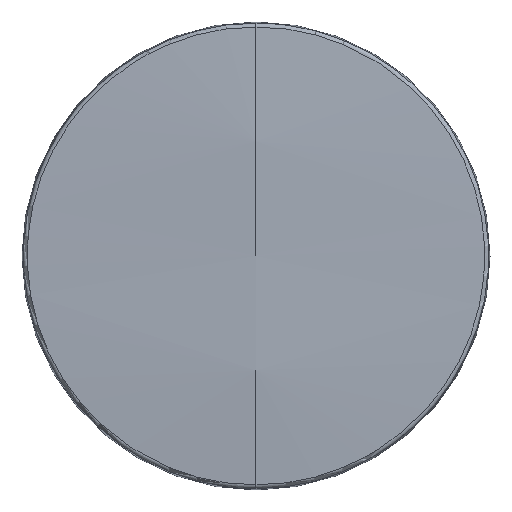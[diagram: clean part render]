
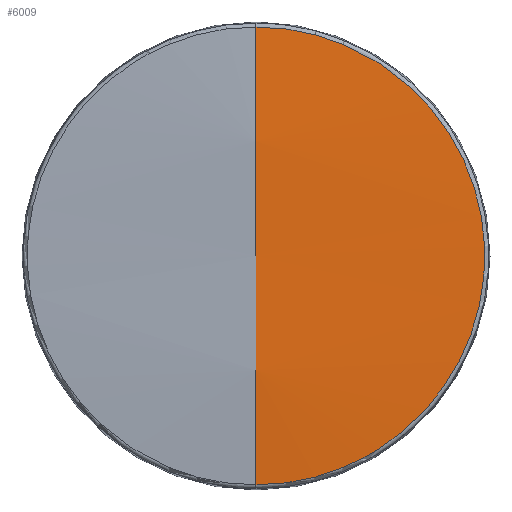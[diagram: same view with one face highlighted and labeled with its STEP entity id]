
A CAD part, top view. The second image highlights one B-rep face of the part: STEP entity #6009.
In plain terms, the highlighted spherical face has radius 1077.38 mm.
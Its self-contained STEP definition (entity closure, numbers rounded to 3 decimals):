
#20=SPHERICAL_SURFACE('',#6588,1077.38);
#84=B_SPLINE_CURVE_WITH_KNOTS('',3,(#10191,#10192,#10193,#10194,#10195),
 .UNSPECIFIED.,.F.,.F.,(4,1,4),(0.,0.5,1.),.UNSPECIFIED.);
#88=B_SPLINE_CURVE_WITH_KNOTS('',3,(#10237,#10238,#10239,#10240),
 .UNSPECIFIED.,.F.,.F.,(4,4),(0.,0.125),.UNSPECIFIED.);
#89=B_SPLINE_CURVE_WITH_KNOTS('',3,(#10241,#10242,#10243,#10244,#10245,
#10246,#10247,#10248,#10249,#10250,#10251,#10252,#10253,#10254,#10255,#10256),
 .UNSPECIFIED.,.F.,.F.,(4,3,3,3,3,4),(0.,0.25,
0.49,0.729,0.969,1.),.UNSPECIFIED.);
#90=B_SPLINE_CURVE_WITH_KNOTS('',3,(#10258,#10259,#10260,#10261,#10262,
#10263,#10264,#10265,#10266,#10267,#10268,#10269,#10270,#10271,#10272,#10273),
 .UNSPECIFIED.,.F.,.F.,(4,3,3,3,3,4),(0.,0.25,
0.49,0.729,0.969,1.),.UNSPECIFIED.);
#91=B_SPLINE_CURVE_WITH_KNOTS('',3,(#10275,#10276,#10277,#10278),
 .UNSPECIFIED.,.F.,.F.,(4,4),(0.875,1.),.UNSPECIFIED.);
#92=B_SPLINE_CURVE_WITH_KNOTS('',3,(#10279,#10280,#10281,#10282,#10283,
#10284,#10285,#10286,#10287),.UNSPECIFIED.,.F.,.F.,(4,1,1,1,1,1,4),(0.125,
0.25,0.375,0.5,0.625,0.75,0.875),.UNSPECIFIED.);
#525=FACE_OUTER_BOUND('',#869,.T.);
#869=EDGE_LOOP('',(#5061,#5062,#5063,#5064,#5065,#5066));
#2725=VERTEX_POINT('',#10189);
#2726=VERTEX_POINT('',#10190);
#2727=VERTEX_POINT('',#10235);
#2728=VERTEX_POINT('',#10236);
#2729=VERTEX_POINT('',#10257);
#2730=VERTEX_POINT('',#10274);
#3523=EDGE_CURVE('',#2725,#2726,#84,.T.);
#3527=EDGE_CURVE('',#2727,#2728,#88,.T.);
#3528=EDGE_CURVE('',#2725,#2727,#89,.T.);
#3529=EDGE_CURVE('',#2729,#2726,#90,.T.);
#3530=EDGE_CURVE('',#2730,#2729,#91,.T.);
#3531=EDGE_CURVE('',#2728,#2730,#92,.T.);
#5061=ORIENTED_EDGE('',*,*,#3527,.F.);
#5062=ORIENTED_EDGE('',*,*,#3528,.F.);
#5063=ORIENTED_EDGE('',*,*,#3523,.T.);
#5064=ORIENTED_EDGE('',*,*,#3529,.F.);
#5065=ORIENTED_EDGE('',*,*,#3530,.F.);
#5066=ORIENTED_EDGE('',*,*,#3531,.F.);
#6009=ADVANCED_FACE('',(#525),#20,.T.);
#6588=AXIS2_PLACEMENT_3D('',#10234,#8089,#8090);
#8089=DIRECTION('center_axis',(0.,0.,1.));
#8090=DIRECTION('ref_axis',(0.,-1.,0.));
#10189=CARTESIAN_POINT('',(0.,0.02,245.505));
#10190=CARTESIAN_POINT('',(0.,-0.02,245.505));
#10191=CARTESIAN_POINT('Ctrl Pts',(0.,0.02,
246.505));
#10192=CARTESIAN_POINT('Ctrl Pts',(0.013,0.013,
246.505));
#10193=CARTESIAN_POINT('Ctrl Pts',(0.027,0.,
246.505));
#10194=CARTESIAN_POINT('Ctrl Pts',(0.013,-0.013,
246.505));
#10195=CARTESIAN_POINT('Ctrl Pts',(0.,-0.02,
246.505));
#10234=CARTESIAN_POINT('Origin',(0.,0.,-830.874));
#10235=CARTESIAN_POINT('',(0.,79.196,243.591));
#10236=CARTESIAN_POINT('',(30.307,73.167,243.591));
#10237=CARTESIAN_POINT('Ctrl Pts',(0.,79.196,
243.591));
#10238=CARTESIAN_POINT('Ctrl Pts',(10.408,79.3,243.591));
#10239=CARTESIAN_POINT('Ctrl Pts',(20.742,77.162,243.591));
#10240=CARTESIAN_POINT('Ctrl Pts',(30.307,73.167,243.591));
#10241=CARTESIAN_POINT('Ctrl Pts',(0.,0.02,
246.505));
#10242=CARTESIAN_POINT('Ctrl Pts',(0.,6.627,
246.505));
#10243=CARTESIAN_POINT('Ctrl Pts',(0.,13.232,
246.444));
#10244=CARTESIAN_POINT('Ctrl Pts',(0.,19.834,
246.323));
#10245=CARTESIAN_POINT('Ctrl Pts',(0.,26.166,
246.206));
#10246=CARTESIAN_POINT('Ctrl Pts',(0.,32.497,
246.034));
#10247=CARTESIAN_POINT('Ctrl Pts',(0.,38.825,
245.806));
#10248=CARTESIAN_POINT('Ctrl Pts',(0.,45.142,
245.578));
#10249=CARTESIAN_POINT('Ctrl Pts',(0.,51.457,
245.295));
#10250=CARTESIAN_POINT('Ctrl Pts',(0.,57.77,
244.956));
#10251=CARTESIAN_POINT('Ctrl Pts',(0.,64.093,
244.616));
#10252=CARTESIAN_POINT('Ctrl Pts',(0.,70.413,
244.221));
#10253=CARTESIAN_POINT('Ctrl Pts',(0.,76.732,
243.77));
#10254=CARTESIAN_POINT('Ctrl Pts',(0.,77.553,
243.711));
#10255=CARTESIAN_POINT('Ctrl Pts',(0.,78.375,
243.651));
#10256=CARTESIAN_POINT('Ctrl Pts',(0.,79.196,
243.591));
#10257=CARTESIAN_POINT('',(0.,-79.196,243.591));
#10258=CARTESIAN_POINT('Ctrl Pts',(0.,-79.196,
243.591));
#10259=CARTESIAN_POINT('Ctrl Pts',(0.,-72.607,
244.076));
#10260=CARTESIAN_POINT('Ctrl Pts',(0.,-66.015,
244.501));
#10261=CARTESIAN_POINT('Ctrl Pts',(0.,-59.422,
244.866));
#10262=CARTESIAN_POINT('Ctrl Pts',(0.,-53.098,
245.215));
#10263=CARTESIAN_POINT('Ctrl Pts',(0.,-46.772,
245.508));
#10264=CARTESIAN_POINT('Ctrl Pts',(0.,-40.444,
245.746));
#10265=CARTESIAN_POINT('Ctrl Pts',(0.,-34.128,
245.983));
#10266=CARTESIAN_POINT('Ctrl Pts',(0.,-27.809,
246.165));
#10267=CARTESIAN_POINT('Ctrl Pts',(0.,-21.488,
246.291));
#10268=CARTESIAN_POINT('Ctrl Pts',(0.,-15.158,
246.417));
#10269=CARTESIAN_POINT('Ctrl Pts',(0.,-8.825,
246.488));
#10270=CARTESIAN_POINT('Ctrl Pts',(0.,-2.49,
246.503));
#10271=CARTESIAN_POINT('Ctrl Pts',(0.,-1.667,
246.505));
#10272=CARTESIAN_POINT('Ctrl Pts',(0.,-0.843,
246.505));
#10273=CARTESIAN_POINT('Ctrl Pts',(0.,-0.02,
246.505));
#10274=CARTESIAN_POINT('',(30.307,-73.167,243.591));
#10275=CARTESIAN_POINT('Ctrl Pts',(30.307,-73.167,243.591));
#10276=CARTESIAN_POINT('Ctrl Pts',(20.742,-77.162,243.591));
#10277=CARTESIAN_POINT('Ctrl Pts',(10.408,-79.3,243.591));
#10278=CARTESIAN_POINT('Ctrl Pts',(0.,-79.196,
243.591));
#10279=CARTESIAN_POINT('Ctrl Pts',(30.307,73.167,243.591));
#10280=CARTESIAN_POINT('Ctrl Pts',(39.872,69.173,243.591));
#10281=CARTESIAN_POINT('Ctrl Pts',(57.463,57.471,243.591));
#10282=CARTESIAN_POINT('Ctrl Pts',(75.071,31.093,243.591));
#10283=CARTESIAN_POINT('Ctrl Pts',(81.258,0.,
243.591));
#10284=CARTESIAN_POINT('Ctrl Pts',(75.071,-31.093,243.591));
#10285=CARTESIAN_POINT('Ctrl Pts',(57.463,-57.471,243.591));
#10286=CARTESIAN_POINT('Ctrl Pts',(39.872,-69.173,243.591));
#10287=CARTESIAN_POINT('Ctrl Pts',(30.307,-73.167,243.591));
